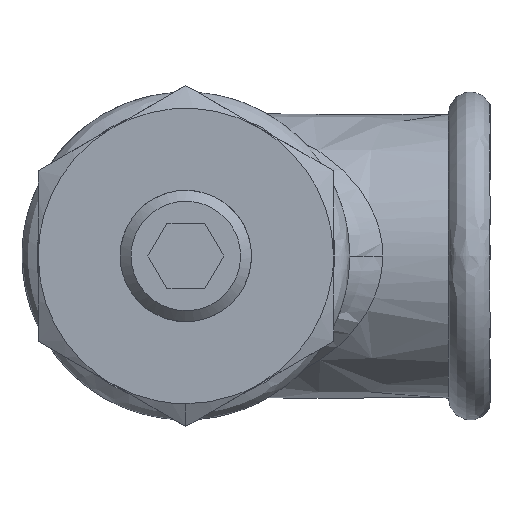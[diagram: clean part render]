
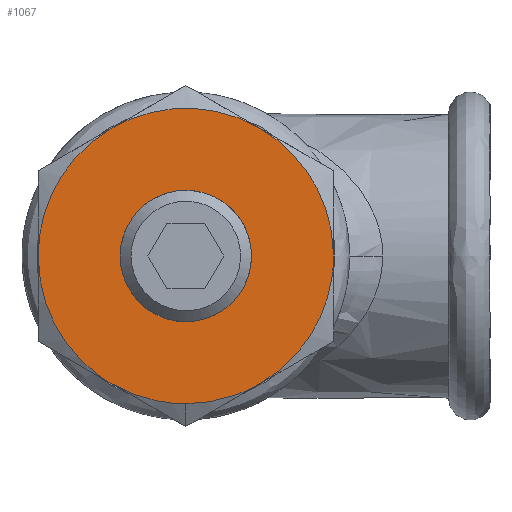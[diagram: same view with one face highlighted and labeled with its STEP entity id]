
A CAD part, left-side view. The second image highlights one B-rep face of the part: STEP entity #1067.
In plain terms, the highlighted free-form (B-spline) face has degree [1, 1] with [2, 2] control points.
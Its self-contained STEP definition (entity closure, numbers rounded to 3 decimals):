
#873=CARTESIAN_POINT('V96',(8.2,6.,
   0.));
#874=VERTEX_POINT('V96',#873);
#875=CARTESIAN_POINT('E157',(8.2,6.,
   0.));
#876=CARTESIAN_POINT('E157',(8.2,6.,
   -10.392));
#877=CARTESIAN_POINT('E157',(8.2,-3.,
   -5.196));
#878=CARTESIAN_POINT('E157',(8.2,-12.,
   0.));
#879=CARTESIAN_POINT('E157',(8.2,-3.,
   5.196));
#880=CARTESIAN_POINT('E157',(8.2,6.,
   10.392));
#881=CARTESIAN_POINT('E157',(8.2,6.,
   0.));
#889=(BOUNDED_CURVE()B_SPLINE_CURVE(2,(#875,#876,#877,#878,#879,
   #880,#881),.CIRCULAR_ARC.,.T.,.U.)B_SPLINE_CURVE_WITH_KNOTS((3,
   2,2,3),(0.0,0.333,0.667,1.0),
   .UNSPECIFIED.)CURVE()GEOMETRIC_REPRESENTATION_ITEM()
   RATIONAL_B_SPLINE_CURVE((1.0,0.5,1.0,
   0.5,1.0,0.5,1.0))REPRESENTATION_ITEM(
   'E157'));
#890=EDGE_CURVE('E157',#874,#874,#889,.T.);
#924=CARTESIAN_POINT('V85',(8.2,0.,
   -13.5));
#925=VERTEX_POINT('V85',#924);
#933=CARTESIAN_POINT('V95',(8.2,6.751,
   -11.691));
#934=VERTEX_POINT('V95',#933);
#935=CARTESIAN_POINT('E156',(8.2,6.751,
   -11.691));
#936=CARTESIAN_POINT('E156',(8.2,3.618,
   -13.5));
#937=CARTESIAN_POINT('E156',(8.2,0.,
   -13.5));
#945=(BOUNDED_CURVE()B_SPLINE_CURVE(2,(#935,#936,#937),
   .CIRCULAR_ARC.,.F.,.U.)B_SPLINE_CURVE_WITH_KNOTS((3,3),(
   36.039,39.574),.UNSPECIFIED.)CURVE()
   GEOMETRIC_REPRESENTATION_ITEM()RATIONAL_B_SPLINE_CURVE((
   0.804,0.866,1.0))REPRESENTATION_ITEM(
   'E156'));
#946=EDGE_CURVE('E156',#934,#925,#945,.T.);
#964=CARTESIAN_POINT('F62',(8.2,14.85,
   17.147));
#965=CARTESIAN_POINT('F62',(8.2,14.85,
   -17.147));
#966=CARTESIAN_POINT('F62',(8.2,-14.85,
   17.147));
#967=CARTESIAN_POINT('F62',(8.2,-14.85,
   -17.147));
#968=QUASI_UNIFORM_SURFACE('F62',1,1,((#964,#966),(#965,#967)),
   .PLANE_SURF.,.F.,.F.,.U.);
#969=CARTESIAN_POINT('V83',(8.2,-6.749,
   -11.692));
#970=VERTEX_POINT('V83',#969);
#971=CARTESIAN_POINT('E139',(8.2,0.,
   -13.5));
#972=CARTESIAN_POINT('E139',(8.2,-3.617,
   -13.5));
#973=CARTESIAN_POINT('E139',(8.2,-6.749,
   -11.692));
#981=(BOUNDED_CURVE()B_SPLINE_CURVE(2,(#971,#972,#973),
   .CIRCULAR_ARC.,.F.,.U.)B_SPLINE_CURVE_WITH_KNOTS((3,3),(0.0,
   3.534),.UNSPECIFIED.)CURVE()
   GEOMETRIC_REPRESENTATION_ITEM()RATIONAL_B_SPLINE_CURVE((1.0,
   0.866,0.804))REPRESENTATION_ITEM('E139')
   );
#982=EDGE_CURVE('E139',#925,#970,#981,.T.);
#983=ORIENTED_EDGE('E139',*,*,#982,.T.);
#984=CARTESIAN_POINT('V87',(8.2,-13.5,
   0.));
#985=VERTEX_POINT('V87',#984);
#986=CARTESIAN_POINT('E141',(8.2,-6.749,
   -11.692));
#987=CARTESIAN_POINT('E141',(8.2,-13.5,
   -7.795));
#988=CARTESIAN_POINT('E141',(8.2,-13.5,
   0.));
#996=(BOUNDED_CURVE()B_SPLINE_CURVE(2,(#986,#987,#988),
   .CIRCULAR_ARC.,.F.,.U.)CURVE()GEOMETRIC_REPRESENTATION_ITEM()
   QUASI_UNIFORM_CURVE()RATIONAL_B_SPLINE_CURVE((1.0,
   0.866,1.0))REPRESENTATION_ITEM('E141'));
#997=EDGE_CURVE('E141',#970,#985,#996,.T.);
#998=ORIENTED_EDGE('E141',*,*,#997,.T.);
#999=CARTESIAN_POINT('V89',(8.2,-6.753,
   11.689));
#1000=VERTEX_POINT('V89',#999);
#1001=CARTESIAN_POINT('E144',(8.2,-13.5,
   0.));
#1002=CARTESIAN_POINT('E144',(8.2,-13.5,
   3.617));
#1003=CARTESIAN_POINT('E144',(8.2,-11.691,
   6.75));
#1004=CARTESIAN_POINT('E144',(8.2,-9.884,
   9.881));
#1005=CARTESIAN_POINT('E144',(8.2,-6.753,
   11.689));
#1013=(BOUNDED_CURVE()B_SPLINE_CURVE(2,(#1001,#1002,#1003,#1004,
   #1005),.CIRCULAR_ARC.,.F.,.U.)B_SPLINE_CURVE_WITH_KNOTS((3,2,3),
   (9.657,13.191,16.724),
   .UNSPECIFIED.)CURVE()GEOMETRIC_REPRESENTATION_ITEM()
   RATIONAL_B_SPLINE_CURVE((0.804,0.866,
   1.0,0.866,0.804))REPRESENTATION_ITEM(
   'E144'));
#1014=EDGE_CURVE('E144',#985,#1000,#1013,.T.);
#1015=ORIENTED_EDGE('E144',*,*,#1014,.T.);
#1016=CARTESIAN_POINT('V91',(8.2,6.754,
   11.689));
#1017=VERTEX_POINT('V91',#1016);
#1018=CARTESIAN_POINT('E147',(8.2,-6.753,
   11.689));
#1019=CARTESIAN_POINT('E147',(8.2,0.001,
   15.591));
#1020=CARTESIAN_POINT('E147',(8.2,6.754,
   11.689));
#1028=(BOUNDED_CURVE()B_SPLINE_CURVE(2,(#1018,#1019,#1020),
   .CIRCULAR_ARC.,.F.,.U.)B_SPLINE_CURVE_WITH_KNOTS((3,3),(
   16.724,22.85),.UNSPECIFIED.)CURVE()
   GEOMETRIC_REPRESENTATION_ITEM()RATIONAL_B_SPLINE_CURVE((
   0.804,0.696,0.804))
   REPRESENTATION_ITEM('E147'));
#1029=EDGE_CURVE('E147',#1000,#1017,#1028,.T.);
#1030=ORIENTED_EDGE('E147',*,*,#1029,.T.);
#1031=CARTESIAN_POINT('V93',(8.2,13.5,
   0.004));
#1032=VERTEX_POINT('V93',#1031);
#1033=CARTESIAN_POINT('E150',(8.2,6.754,
   11.689));
#1034=CARTESIAN_POINT('E150',(8.2,9.884,
   9.88));
#1035=CARTESIAN_POINT('E150',(8.2,11.691,
   6.75));
#1036=CARTESIAN_POINT('E150',(8.2,13.499,
   3.619));
#1037=CARTESIAN_POINT('E150',(8.2,13.5,
   0.004));
#1045=(BOUNDED_CURVE()B_SPLINE_CURVE(2,(#1033,#1034,#1035,#1036,
   #1037),.CIRCULAR_ARC.,.F.,.U.)B_SPLINE_CURVE_WITH_KNOTS((3,2,3),
   (22.85,26.383,29.915),
   .UNSPECIFIED.)CURVE()GEOMETRIC_REPRESENTATION_ITEM()
   RATIONAL_B_SPLINE_CURVE((0.804,0.866,
   1.0,0.866,0.804))REPRESENTATION_ITEM(
   'E150'));
#1046=EDGE_CURVE('E150',#1017,#1032,#1045,.T.);
#1047=ORIENTED_EDGE('E150',*,*,#1046,.T.);
#1048=CARTESIAN_POINT('E153',(8.2,13.5,
   0.004));
#1049=CARTESIAN_POINT('E153',(8.2,13.503,
   -7.792));
#1050=CARTESIAN_POINT('E153',(8.2,6.751,
   -11.691));
#1058=(BOUNDED_CURVE()B_SPLINE_CURVE(2,(#1048,#1049,#1050),
   .CIRCULAR_ARC.,.F.,.U.)B_SPLINE_CURVE_WITH_KNOTS((3,3),(
   29.915,36.039),.UNSPECIFIED.)CURVE()
   GEOMETRIC_REPRESENTATION_ITEM()RATIONAL_B_SPLINE_CURVE((
   0.804,0.696,0.804))
   REPRESENTATION_ITEM('E153'));
#1059=EDGE_CURVE('E153',#1032,#934,#1058,.T.);
#1060=ORIENTED_EDGE('E153',*,*,#1059,.T.);
#1061=ORIENTED_EDGE('E156',*,*,#946,.T.);
#1062=EDGE_LOOP('F62',(#983,#998,#1015,#1030,#1047,#1060,#1061));
#1063=FACE_OUTER_BOUND('F62',#1062,.T.);
#1064=ORIENTED_EDGE('E157',*,*,#890,.F.);
#1065=EDGE_LOOP('F62',(#1064));
#1066=FACE_BOUND('F62',#1065,.T.);
#1067=ADVANCED_FACE('F62',(#1063,#1066),#968,.T.);
